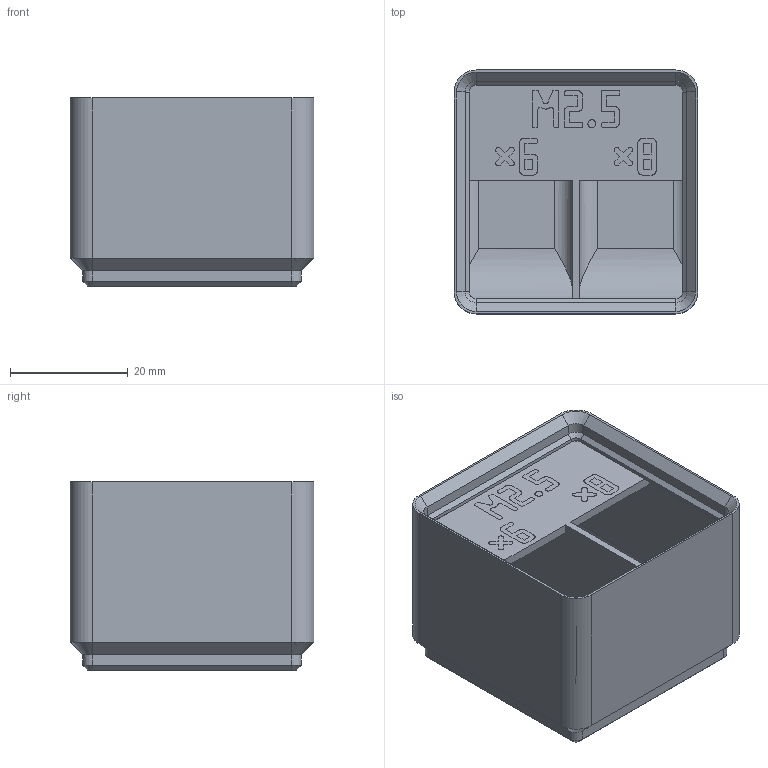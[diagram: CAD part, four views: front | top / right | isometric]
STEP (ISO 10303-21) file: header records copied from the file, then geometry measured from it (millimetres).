
FILE_DESCRIPTION(('Open CASCADE Model'),'2;1');
FILE_NAME('bin_M2.5_6-8','2026-11-03T10:51:56',('Author'),( 'Open CASCADE'),'Open CASCADE STEP processor 8.0','build123d', 'Unknown');
FILE_SCHEMA(('AUTOMOTIVE_DESIGN { 1 0 10303 214 1 1 1 1 }'));
Length unit declared in the file: millimetre
Products named in the file (3): bin_M2.5_6-8; M2.5_6-8_body; M2.5_6-8_label
Assembly tree (2 placements, depth 2):
  bin_M2.5_6-8
    M2.5_6-8_body
    M2.5_6-8_label
Bounding box: 41.5 x 41.5 x 32 mm (x, y, z)
Volume: 21988.3 mm3; surface area: 14194.5 mm2
Topology: 9 solids, 9 shells, 1624 faces, 4718 edges, 3124 vertices
Faces by surface type: plane 1580, cylinder 24, cone 20
Entity records: 114113 total; most frequent: CARTESIAN_POINT 19787, DIRECTION 17199, LINE 13826, VECTOR 13826, ORIENTED_EDGE 9436, PCURVE 9436, DEFINITIONAL_REPRESENTATION 9436, EDGE_CURVE 4718
